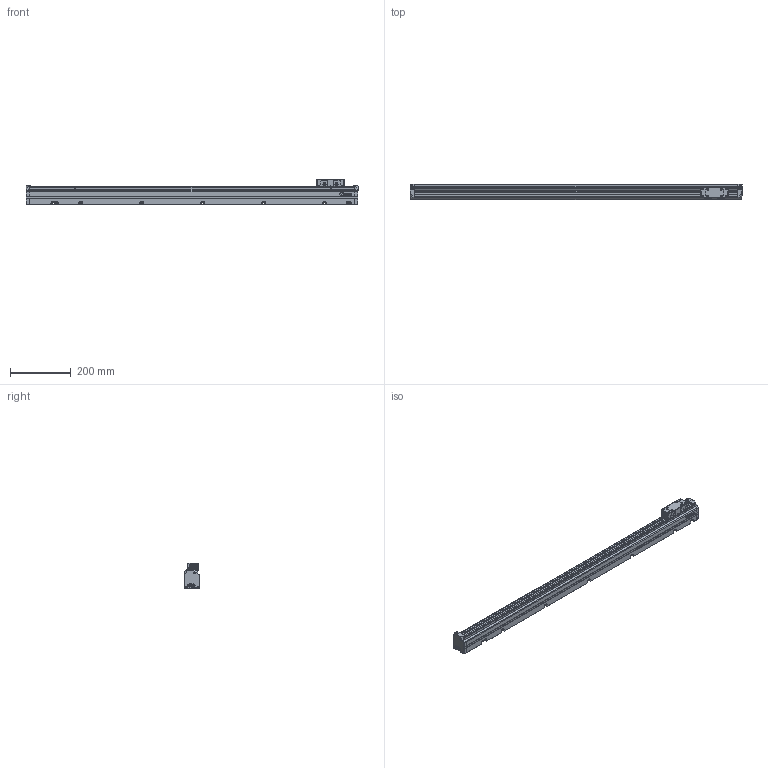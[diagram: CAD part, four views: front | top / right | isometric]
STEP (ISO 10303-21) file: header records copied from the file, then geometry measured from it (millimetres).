
FILE_DESCRIPTION(('Creo Elements/Direct Modeling STEP Export'),'2;1');
FILE_NAME('REGLA_L3_840_T.stp','2020-12-16T10:52:22',(''),(''),'Creo Elements/Direct Modeling STEP processor for AP214 (Solid Model)','Creo Elements/Direct Modeling 19.0G 27-Nov-2017 (C) Parametric Technology GmbH','');
FILE_SCHEMA(('AUTOMOTIVE_DESIGN { 1 0 10303 214 1 1 1 1 }'));
Length unit declared in the file: millimetre
Products named in the file (3): REGLA_L3_840; CABEZA_L3_T; REGLA_L3_840_T
Assembly tree (2 placements, depth 2):
  REGLA_L3_840_T
    CABEZA_L3_T
    REGLA_L3_840
Bounding box: 1090 x 50 x 85 mm (x, y, z)
Volume: 2901447.3 mm3; surface area: 301662 mm2
Topology: 2 solids, 2 shells, 1445 faces, 3845 edges, 2478 vertices
Faces by surface type: plane 710, cylinder 446, cone 169, bspline 63, torus 51, extrusion 6
Entity records: 64278 total; most frequent: CARTESIAN_POINT 23515, ORIENTED_EDGE 7670, DIRECTION 6775, EDGE_CURVE 3835, VERTEX_POINT 2478, AXIS2_PLACEMENT_3D 2281, VECTOR 2213, LINE 2207
